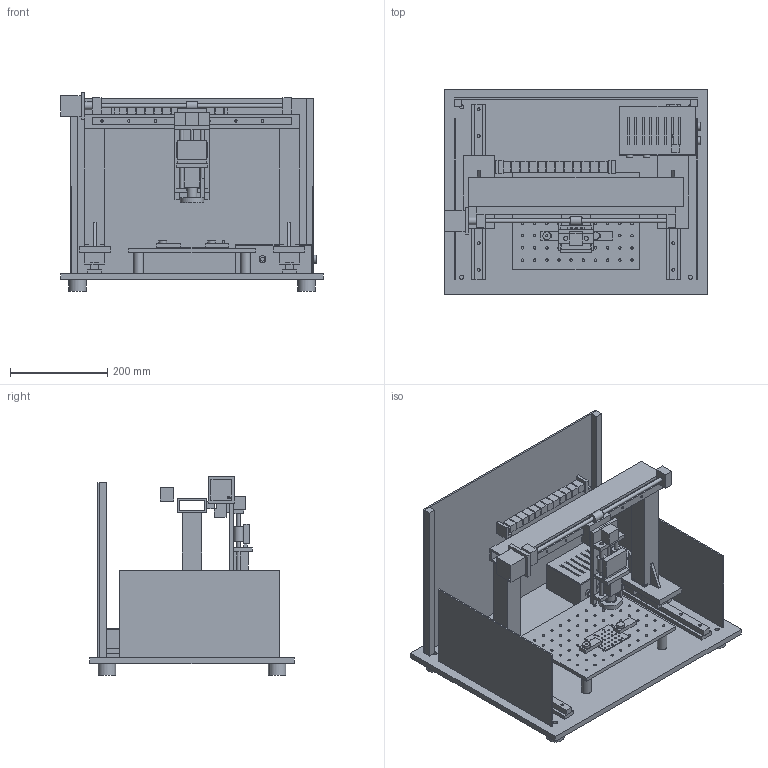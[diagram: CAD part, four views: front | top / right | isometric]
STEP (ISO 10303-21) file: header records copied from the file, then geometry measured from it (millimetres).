
FILE_DESCRIPTION(('Open CASCADE Model'),'2;1');
FILE_NAME('inspection-workstation','2026-10-03T09:10:19',('Author'),( 'Open CASCADE'),'Open CASCADE STEP processor 7.9','build123d', 'Unknown');
FILE_SCHEMA(('AUTOMOTIVE_DESIGN { 1 0 10303 214 1 1 1 1 }'));
Length unit declared in the file: millimetre
Products named in the file (105): inspection-workstation; 01_base; W01; W02_1; W02_2; W02_3; W02_4; 02_y_axis; W03_0; W04_0; W05_0_0; W05_0_1; W06_0; W03_1; W04_1; W05_1_0; W05_1_1; W06_1; 03_gantry; W07_0; W08_0_0; W08_0_1; W07_1; W08_1_0; W08_1_1; W09; 04_x_axis; W10; W11; W12; W13_0; W13_1; W14; W15; W16; W17; 05_focus; W18; W19_0; W19_1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
Assembly tree (104 placements, depth 3):
  inspection-workstation
    01_base
      W01
      W02_1
      W02_2
      W02_3
      W02_4
    02_y_axis
      W03_0
      W04_0
      W05_0_0
      W05_0_1
      W06_0
      W03_1
      W04_1
      W05_1_0
      W05_1_1
      W06_1
    03_gantry
      W07_0
      W08_0_0
      W08_0_1
      W07_1
      W08_1_0
      W08_1_1
      W09
    04_x_axis
      W10
      W11
      W12
      W13_0
      W13_1
      W14
      W15
      W16
      W17
    05_focus
      W18
      W19_0
      W19_1
      W20_0
      W20_1
      W21
      W22_0
      W22_1
      W23
      W24
    06_optics
      W25
      W26
      W27
      W28
      W29
      W30
    07_workholding
      W31
      W32_0
      W32_1
      W32_2
      W32_3
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Bounding box: 540 x 420 x 408 mm (x, y, z)
Volume: 6615114.7 mm3; surface area: 2107477.4 mm2
Topology: 93 solids, 93 shells, 797 faces, 1791 edges, 1194 vertices
Faces by surface type: plane 583, cylinder 214
Full cylindrical faces by diameter (mm): 3 x30, 4.6 x4, 5 x77, 5.4 x1, 5.6 x14, 6 x9, 6.4 x2, 6.6 x12, 8 x5, 8.3 x4, 8.4 x5, 8.6 x7, 10 x10, 12 x4, 14 x4, 16 x5, 18 x1, 20 x7, 26 x1, 36 x4, 48 x1
Entity records: 49328 total; most frequent: CARTESIAN_POINT 8039, DIRECTION 7059, LINE 3963, VECTOR 3963, ORIENTED_EDGE 3582, PCURVE 3582, DEFINITIONAL_REPRESENTATION 3582, EDGE_CURVE 1791
